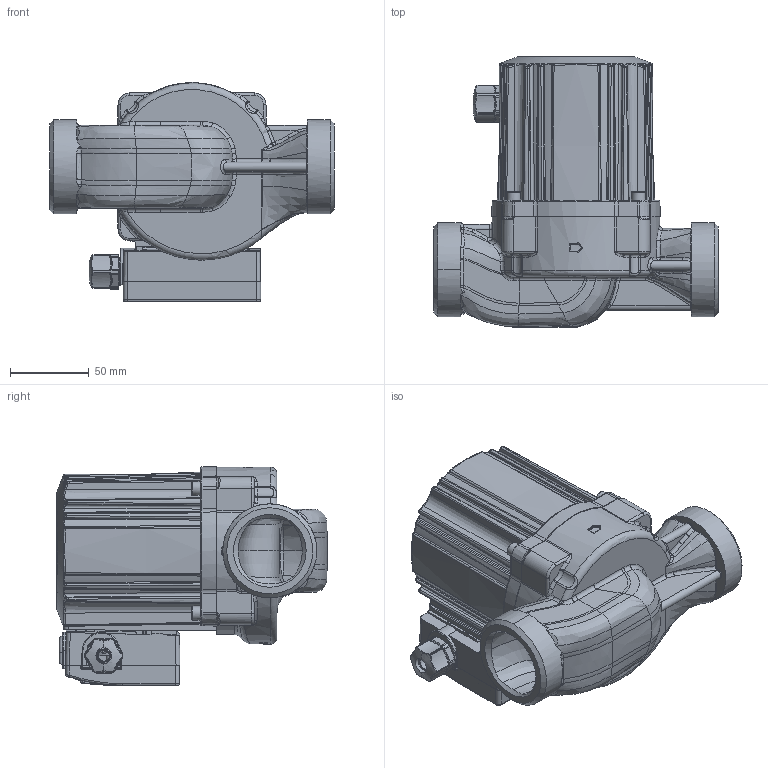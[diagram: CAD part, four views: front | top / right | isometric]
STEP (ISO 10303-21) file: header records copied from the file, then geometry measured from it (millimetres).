
FILE_DESCRIPTION(('STEP AP242'), '1');
FILE_NAME('VRS.328.18', '2025-10-08T11:58:32', (''), (''), 'C3D Converter', 'C3D Toolkit', '');
FILE_SCHEMA(('AP242_MANAGED_MODEL_BASED_3D_ENGINEERING_MIM_LF { 1 0 10303 442 1 1 4 }'));
Length unit declared in the file: millimetre
Products named in the file (1): 32-8E-180_ASM
Bounding box: 180 x 171.49 x 138.68 mm (x, y, z)
Volume: 310297.7 mm3; surface area: 261483.9 mm2
Topology: 5 solids, 12 shells, 3153 faces, 8349 edges, 5135 vertices
Faces by surface type: plane 1239, cylinder 713, bspline 603, torus 369, cone 143, sphere 86
Full cylindrical faces by diameter (mm): 2.4 x8, 3.3 x4, 4.5 x10, 4.7 x1, 5 x8, 6 x4, 7 x2, 7.5 x1, 8 x1, 8.5 x2, 8.8 x4, 10 x4, 12 x2, 14 x1, 16 x1, 17.1 x1, 17.5 x1, 19 x2, 22.5 x1, 23.5 x1, 24.3 x1, 25.6 x1, 31.5 x1, 43 x1, 43.5 x1, 49.9 x1, 50.5 x1, 59.5 x1, 70.5 x1, 88.2 x1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
Entity records: 239347 total; most frequent: CARTESIAN_POINT 147478, ORIENTED_EDGE 16112, DIRECTION 10221, EDGE_CURVE 8064, VERTEX_POINT 5120, B_SPLINE_CURVE_WITH_KNOTS 4010, AXIS2_PLACEMENT_3D 3818, EDGE_LOOP 3452
